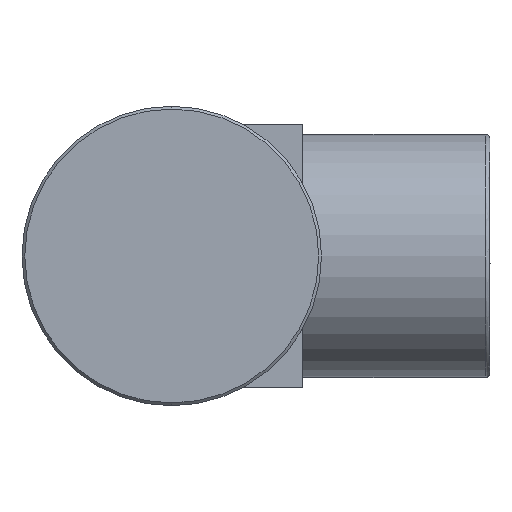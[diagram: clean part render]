
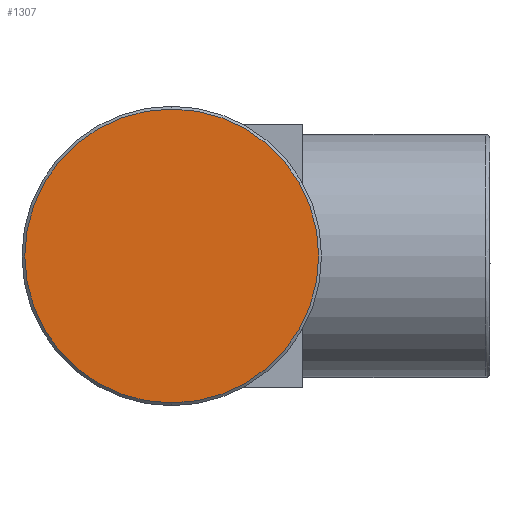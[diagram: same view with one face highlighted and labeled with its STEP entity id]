
A CAD part, left-side view. The second image highlights one B-rep face of the part: STEP entity #1307.
In plain terms, the highlighted planar face has unit normal (-1, 0, 0).
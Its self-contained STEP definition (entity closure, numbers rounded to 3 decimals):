
#42 = EDGE_CURVE ( 'NONE', #1244, #671, #935, .T. ) ;
#126 = EDGE_CURVE ( 'NONE', #671, #1244, #1263, .T. ) ;
#255 = CARTESIAN_POINT ( 'NONE',  ( 0., 0., 15.7 ) ) ;
#273 = AXIS2_PLACEMENT_3D ( 'NONE', #1459, #1015, #596 ) ;
#501 = PLANE ( 'NONE',  #273 ) ;
#528 = EDGE_LOOP ( 'NONE', ( #1017, #988 ) ) ;
#596 = DIRECTION ( 'NONE',  ( 0., 0., -1. ) ) ;
#671 = VERTEX_POINT ( 'NONE', #255 ) ;
#789 = FACE_OUTER_BOUND ( 'NONE', #528, .T. ) ;
#790 = AXIS2_PLACEMENT_3D ( 'NONE', #922, #1188, #1336 ) ;
#897 = CARTESIAN_POINT ( 'NONE',  ( 0., 0., -15.7 ) ) ;
#922 = CARTESIAN_POINT ( 'NONE',  ( 0., 0., 0. ) ) ;
#935 = CIRCLE ( 'NONE', #1210, 15.7 ) ;
#988 = ORIENTED_EDGE ( 'NONE', *, *, #126, .T. ) ;
#1015 = DIRECTION ( 'NONE',  ( 1., 0., 0. ) ) ;
#1017 = ORIENTED_EDGE ( 'NONE', *, *, #42, .T. ) ;
#1036 = CARTESIAN_POINT ( 'NONE',  ( 0., 0., 0. ) ) ;
#1171 = DIRECTION ( 'NONE',  ( -1., 0., 0. ) ) ;
#1188 = DIRECTION ( 'NONE',  ( -1., 0., 0. ) ) ;
#1210 = AXIS2_PLACEMENT_3D ( 'NONE', #1036, #1171, #1568 ) ;
#1244 = VERTEX_POINT ( 'NONE', #897 ) ;
#1263 = CIRCLE ( 'NONE', #790, 15.7 ) ;
#1307 = ADVANCED_FACE ( 'NONE', ( #789 ), #501, .F. ) ;
#1336 = DIRECTION ( 'NONE',  ( 0., 0., -1. ) ) ;
#1459 = CARTESIAN_POINT ( 'NONE',  ( 0., -15.888, 15.888 ) ) ;
#1568 = DIRECTION ( 'NONE',  ( 0., 0., -1. ) ) ;
